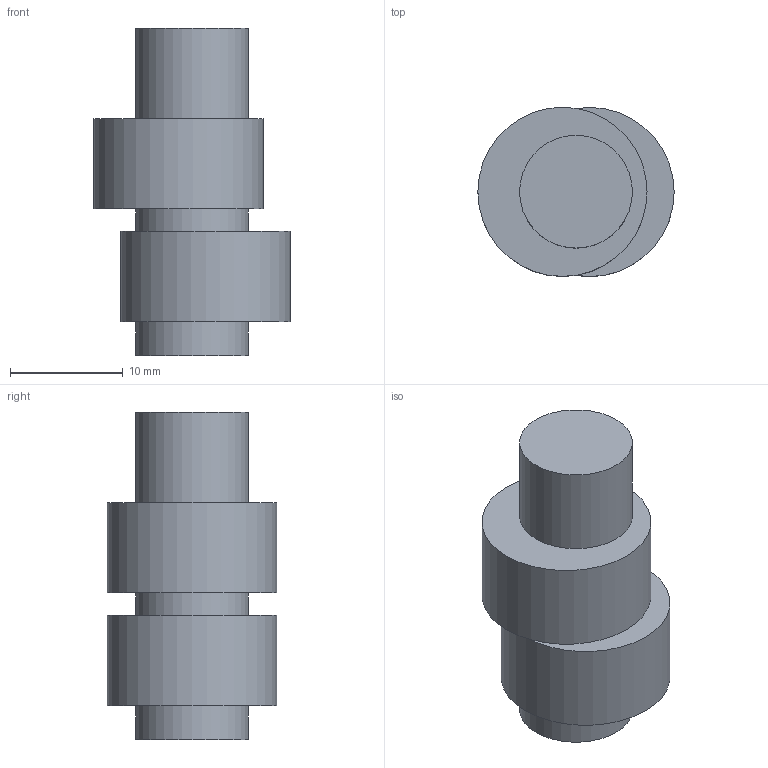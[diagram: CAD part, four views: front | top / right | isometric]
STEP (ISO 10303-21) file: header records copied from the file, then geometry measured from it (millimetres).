
FILE_DESCRIPTION(('FreeCAD Model'),'2;1');
FILE_NAME('Open CASCADE Shape Model','2026-11-09T00:40:16',('FreeCAD'),( 'FreeCAD'),'Open CASCADE STEP processor 7.8','FreeCAD','Unknown');
FILE_SCHEMA(('AUTOMOTIVE_DESIGN { 1 0 10303 214 1 1 1 1 }'));
Length unit declared in the file: millimetre
Products named in the file (1): Open CASCADE STEP translator 7.8 2
Bounding box: 17.4 x 15 x 29 mm (x, y, z)
Volume: 3848.5 mm3; surface area: 1712.2 mm2
Topology: 1 solids, 1 shells, 11 faces, 15 edges, 10 vertices
Faces by surface type: plane 6, cylinder 5
Full cylindrical faces by diameter (mm): 10 x3, 15 x2
Entity records: 249 total; most frequent: DIRECTION 49, CARTESIAN_POINT 37, ORIENTED_EDGE 30, AXIS2_PLACEMENT_3D 22, FACE_BOUND 15, EDGE_LOOP 15, EDGE_CURVE 15, ADVANCED_FACE 11
